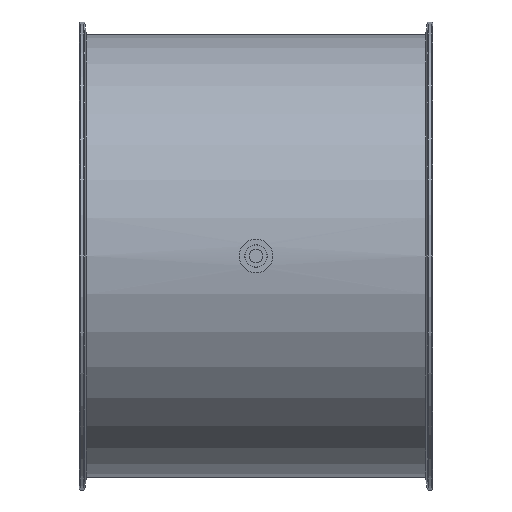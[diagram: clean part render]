
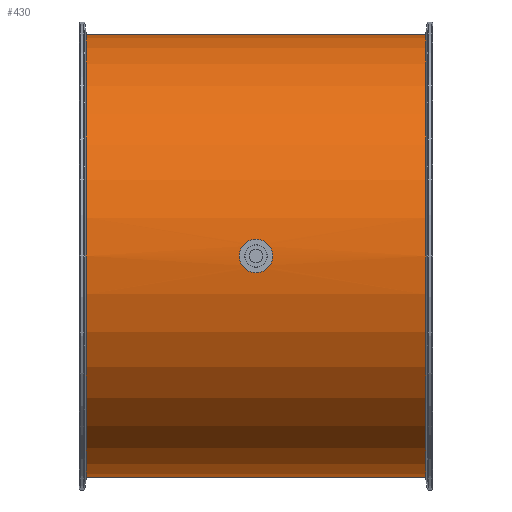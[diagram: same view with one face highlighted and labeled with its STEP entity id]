
A CAD part, front view. The second image highlights one B-rep face of the part: STEP entity #430.
In plain terms, the highlighted cylindrical face has radius 251 mm (diameter 502 mm), a full revolution.
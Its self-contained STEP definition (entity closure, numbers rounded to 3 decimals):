
#103=B_SPLINE_CURVE_WITH_KNOTS('',3,(#1907,#1908,#1909,#1910,#1911,#1912,
#1913,#1914,#1915,#1916,#1917,#1918,#1919,#1920,#1921,#1922,#1923,#1924),
 .UNSPECIFIED.,.T.,.F.,(2,2,2,2,2,2,2,2,2,2,2),(-0.125,0.,0.125,
0.25,0.375,0.5,0.625,
0.75,0.875,1.,1.125),.UNSPECIFIED.);
#104=B_SPLINE_CURVE_WITH_KNOTS('',3,(#1926,#1927,#1928,#1929,#1930,#1931,
#1932,#1933,#1934,#1935,#1936,#1937,#1938,#1939,#1940,#1941,#1942,#1943),
 .UNSPECIFIED.,.T.,.F.,(2,2,2,2,2,2,2,2,2,2,2),(-0.125,0.,0.125,
0.25,0.375,0.5,0.625,
0.75,0.875,1.,1.125),.UNSPECIFIED.);
#233=CYLINDRICAL_SURFACE('',#1328,251.);
#313=FACE_BOUND('',#615,.T.);
#314=FACE_BOUND('',#616,.T.);
#315=FACE_BOUND('',#617,.T.);
#316=FACE_BOUND('',#618,.T.);
#430=ADVANCED_FACE('',(#313,#314,#315,#316),#233,.T.);
#615=EDGE_LOOP('',(#801));
#616=EDGE_LOOP('',(#802));
#617=EDGE_LOOP('',(#803));
#618=EDGE_LOOP('',(#804));
#801=ORIENTED_EDGE('',*,*,#1105,.F.);
#802=ORIENTED_EDGE('',*,*,#1107,.F.);
#803=ORIENTED_EDGE('',*,*,#1108,.F.);
#804=ORIENTED_EDGE('',*,*,#1109,.F.);
#996=VERTEX_POINT('',#1900);
#998=VERTEX_POINT('',#1905);
#999=VERTEX_POINT('',#1925);
#1000=VERTEX_POINT('',#1944);
#1105=EDGE_CURVE('',#996,#996,#1218,.T.);
#1107=EDGE_CURVE('',#998,#998,#1220,.T.);
#1108=EDGE_CURVE('',#999,#999,#103,.T.);
#1109=EDGE_CURVE('',#1000,#1000,#104,.T.);
#1218=CIRCLE('',#1323,251.);
#1220=CIRCLE('',#1326,251.);
#1323=AXIS2_PLACEMENT_3D('',#1899,#1557,#1558);
#1326=AXIS2_PLACEMENT_3D('',#1904,#1563,#1564);
#1328=AXIS2_PLACEMENT_3D('',#1945,#1567,#1568);
#1557=DIRECTION('',(1.,0.,0.));
#1558=DIRECTION('',(0.,0.,-1.));
#1563=DIRECTION('',(-1.,0.,0.));
#1564=DIRECTION('',(0.,0.,1.));
#1567=DIRECTION('',(1.,0.,0.));
#1568=DIRECTION('',(0.,0.,-1.));
#1899=CARTESIAN_POINT('',(192.133,-109.,125.));
#1900=CARTESIAN_POINT('',(192.133,-109.,-126.));
#1904=CARTESIAN_POINT('',(-192.133,-109.,125.));
#1905=CARTESIAN_POINT('',(-192.133,-109.,376.));
#1907=CARTESIAN_POINT('',(3.436,141.663,112.));
#1908=CARTESIAN_POINT('',(-3.436,141.663,112.));
#1909=CARTESIAN_POINT('',(-6.795,141.744,113.41));
#1910=CARTESIAN_POINT('',(-11.591,141.92,118.207));
#1911=CARTESIAN_POINT('',(-12.998,142.,121.601));
#1912=CARTESIAN_POINT('',(-13.002,142.,128.385));
#1913=CARTESIAN_POINT('',(-11.623,141.921,131.76));
#1914=CARTESIAN_POINT('',(-6.771,141.743,136.616));
#1915=CARTESIAN_POINT('',(-3.398,141.663,137.999));
#1916=CARTESIAN_POINT('',(3.389,141.663,138.001));
#1917=CARTESIAN_POINT('',(6.784,141.743,136.596));
#1918=CARTESIAN_POINT('',(11.583,141.919,131.806));
#1919=CARTESIAN_POINT('',(12.997,142.,128.444));
#1920=CARTESIAN_POINT('',(13.003,142.,121.583));
#1921=CARTESIAN_POINT('',(11.597,141.92,118.216));
#1922=CARTESIAN_POINT('',(6.802,141.744,113.413));
#1923=CARTESIAN_POINT('',(3.436,141.663,112.));
#1924=CARTESIAN_POINT('',(-3.436,141.663,112.));
#1925=CARTESIAN_POINT('',(0.,141.663,112.));
#1926=CARTESIAN_POINT('',(-3.436,-359.663,112.));
#1927=CARTESIAN_POINT('',(3.436,-359.663,112.));
#1928=CARTESIAN_POINT('',(6.795,-359.744,113.41));
#1929=CARTESIAN_POINT('',(11.591,-359.92,118.207));
#1930=CARTESIAN_POINT('',(12.998,-360.,121.601));
#1931=CARTESIAN_POINT('',(13.002,-360.,128.385));
#1932=CARTESIAN_POINT('',(11.623,-359.921,131.76));
#1933=CARTESIAN_POINT('',(6.771,-359.743,136.616));
#1934=CARTESIAN_POINT('',(3.398,-359.663,137.999));
#1935=CARTESIAN_POINT('',(-3.389,-359.663,138.001));
#1936=CARTESIAN_POINT('',(-6.784,-359.743,136.596));
#1937=CARTESIAN_POINT('',(-11.583,-359.919,131.806));
#1938=CARTESIAN_POINT('',(-12.997,-360.,128.444));
#1939=CARTESIAN_POINT('',(-13.003,-360.,121.583));
#1940=CARTESIAN_POINT('',(-11.597,-359.92,118.216));
#1941=CARTESIAN_POINT('',(-6.802,-359.744,113.413));
#1942=CARTESIAN_POINT('',(-3.436,-359.663,112.));
#1943=CARTESIAN_POINT('',(3.436,-359.663,112.));
#1944=CARTESIAN_POINT('',(0.,-359.663,112.));
#1945=CARTESIAN_POINT('',(-200.,-109.,125.));
